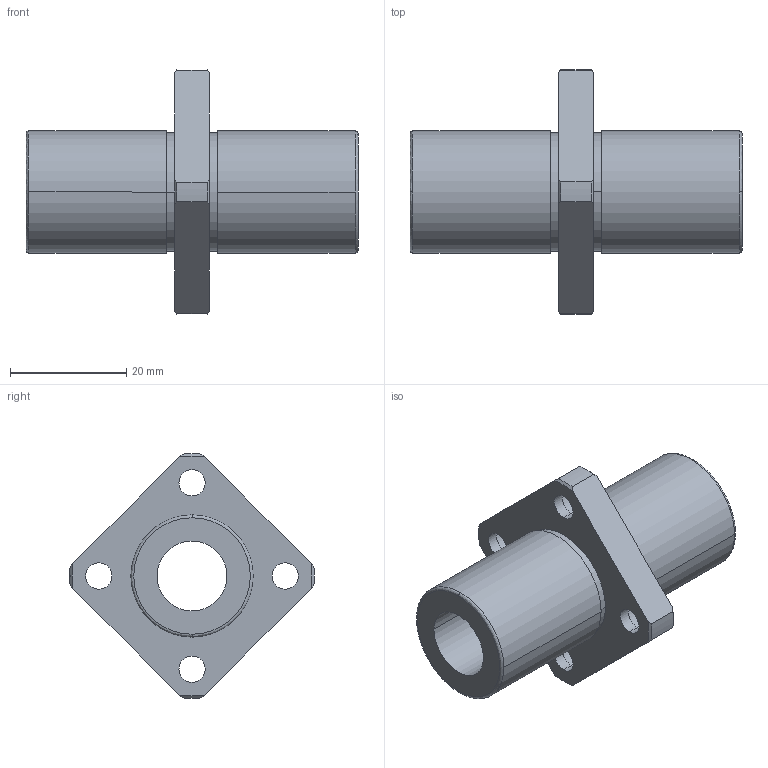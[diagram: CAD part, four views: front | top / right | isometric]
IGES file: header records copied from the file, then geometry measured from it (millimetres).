
Start section: 3D InterOp IGES (Version 21 0 1), Spatial Corp. Copyright (c) 1999-2007.
Global section: file name: NFCS-12VLUU.igs; native system: Spatial Corp.; preprocessor: 3D InterOp GENERIC/IGES 3.0; author: Noname; organization: Noname; date: 20220308.133632; units: millimetre
Bounding box: 57 x 41.99 x 41.98 mm (x, y, z)
Surface area: 8462.9 mm2 (no closed solid volume)
Topology: 0 solids, 0 shells, 59 faces, 292 edges, 292 vertices
Faces by surface type: revolution 45, extrusion 14
